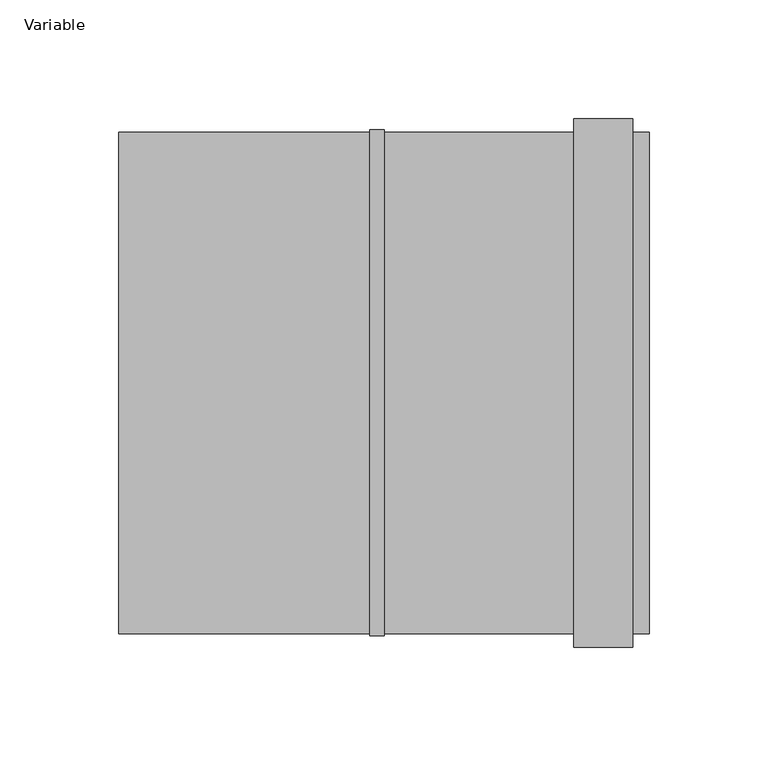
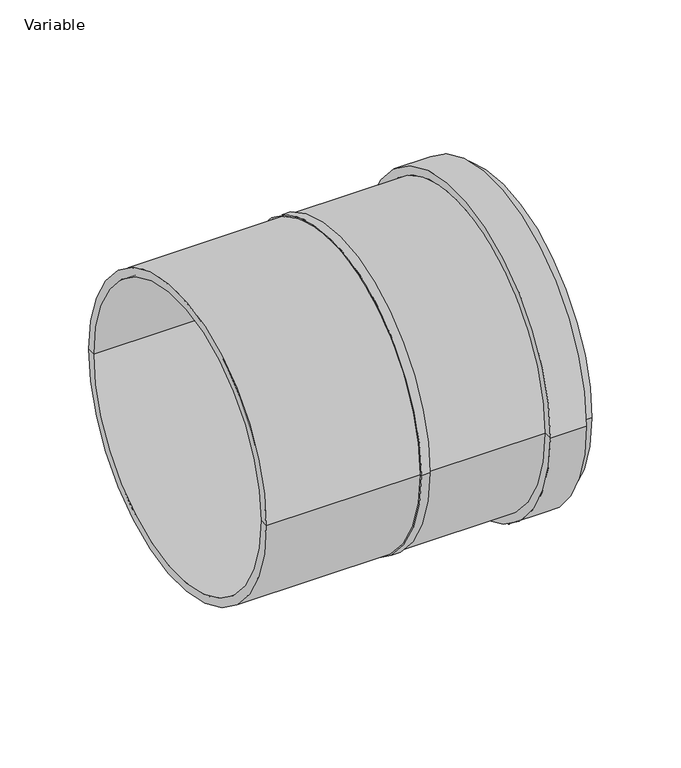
"""IFC4 building model written with IfcOpenShell, lengths in millimetres: pipe fitting geometry, AliaxisFR_Friaphon_MixedCoupling_FR : Variable."""

from ifc_helpers import new_model, si_unit, frame, origin, place, context, project, spatial, polyline, circle_curve, source, transform, mapped, element, save
from ifc_brep_helpers import plane_surface, cylinder_surface, revolved_surface, advanced_brep


def variable_fc7f2102(model_context):
    return source(origin(), model_context, "Body", "AdvancedBrep", [
        advanced_brep(
        [(115.5, -105.75, 0.0), (115.5, 105.75, 0.0), (115.5, 100.0, 0.0), (115.5, -100.0, 0.0), (108.5, -105.75, 0.0), (108.5, 105.75, 0.0), (108.5, -111.5, 0.0), (108.5, 111.5, 0.0), (83.5, -111.5, 0.0), (83.5, 111.5, 0.0), (83.5, -105.75, 0.0), (83.5, 105.75, 0.0), (3.5, -105.75, 0.0), (3.5, 105.75, 0.0), (-108.5, -100.0, 0.0), (-108.5, 100.0, 0.0), (-108.5, 105.75, 0.0), (-108.5, -105.75, 0.0), (-2.5, -100.0, 0.0), (-2.5, 100.0, 0.0), (-2.5, 0.0, 0.0), (2.5, 100.0, 0.0), (2.5, -100.0, 0.0), (3.5, -106.75, 0.0), (3.5, 106.75, 0.0), (-2.5, -106.75, 0.0), (-2.5, 106.75, 0.0), (-2.5, -105.75, 0.0), (-2.5, 105.75, 0.0), (2.5, 0.0, 0.0)],
        [
            (0, 1, circle_curve(frame((115.5, 0.0, 0.0), z_axis=(1.0, 0.0, 0.0), x_axis=(0.0, 1.0, 0.0)), 105.75)),
            (1, 2),
            (2, 3, circle_curve(frame((115.5, 0.0, 0.0), z_axis=(-1.0, 0.0, 0.0), x_axis=(0.0, 1.0, 0.0)), 100.0)),
            (3, 0),
            (1, 0, circle_curve(frame((115.5, 0.0, 0.0), z_axis=(1.0, 0.0, 0.0), x_axis=(0.0, 1.0, 0.0)), 105.75)),
            (3, 2, circle_curve(frame((115.5, 0.0, 0.0), z_axis=(-1.0, 0.0, 0.0), x_axis=(0.0, 1.0, 0.0)), 100.0)),
            (4, 5, circle_curve(frame((108.5, 0.0, 0.0), z_axis=(1.0, 0.0, 0.0), x_axis=(0.0, 1.0, 0.0)), 105.75)),
            (5, 1),
            (0, 4),
            (5, 4, circle_curve(frame((108.5, 0.0, 0.0), z_axis=(1.0, 0.0, 0.0), x_axis=(0.0, 1.0, 0.0)), 105.75)),
            (6, 7, circle_curve(frame((108.5, 0.0, 0.0), z_axis=(1.0, 0.0, 0.0), x_axis=(0.0, 1.0, 0.0)), 111.5)),
            (7, 5),
            (4, 6),
            (7, 6, circle_curve(frame((108.5, 0.0, 0.0), z_axis=(1.0, 0.0, 0.0), x_axis=(0.0, 1.0, 0.0)), 111.5)),
            (8, 9, circle_curve(frame((83.5, 0.0, 0.0), z_axis=(1.0, 0.0, 0.0), x_axis=(0.0, 1.0, 0.0)), 111.5)),
            (9, 7),
            (6, 8),
            (9, 8, circle_curve(frame((83.5, 0.0, 0.0), z_axis=(1.0, 0.0, 0.0), x_axis=(0.0, 1.0, 0.0)), 111.5)),
            (10, 11, circle_curve(frame((83.5, 0.0, 0.0), z_axis=(1.0, 0.0, 0.0), x_axis=(0.0, 1.0, 0.0)), 105.75)),
            (11, 9),
            (8, 10),
            (11, 10, circle_curve(frame((83.5, 0.0, 0.0), z_axis=(1.0, 0.0, 0.0), x_axis=(0.0, 1.0, 0.0)), 105.75)),
            (12, 13, circle_curve(frame((3.5, 0.0, 0.0), z_axis=(1.0, 0.0, 0.0), x_axis=(0.0, 1.0, 0.0)), 105.75)),
            (13, 11),
            (10, 12),
            (13, 12, circle_curve(frame((3.5, 0.0, 0.0), z_axis=(1.0, 0.0, 0.0), x_axis=(0.0, 1.0, 0.0)), 105.75)),
            (14, 15, circle_curve(frame((-108.5, 0.0, 0.0), z_axis=(1.0, 0.0, 0.0), x_axis=(0.0, 1.0, 0.0)), 100.0)),
            (15, 16),
            (16, 17, circle_curve(frame((-108.5, 0.0, 0.0), z_axis=(-1.0, 0.0, 0.0), x_axis=(0.0, 1.0, 0.0)), 105.75)),
            (17, 14),
            (15, 14, circle_curve(frame((-108.5, 0.0, 0.0), z_axis=(1.0, 0.0, 0.0), x_axis=(0.0, 1.0, 0.0)), 100.0)),
            (17, 16, circle_curve(frame((-108.5, 0.0, 0.0), z_axis=(-1.0, 0.0, 0.0), x_axis=(0.0, 1.0, 0.0)), 105.75)),
            (18, 19, circle_curve(frame((-2.5, 0.0, 0.0), z_axis=(1.0, 0.0, 0.0), x_axis=(0.0, 1.0, 0.0)), 100.0)),
            (19, 15),
            (14, 18),
            (19, 18, circle_curve(frame((-2.5, 0.0, 0.0), z_axis=(1.0, 0.0, 0.0), x_axis=(0.0, 1.0, 0.0)), 100.0)),
            (20, 19),
            (18, 20),
            (2, 21),
            (21, 22, circle_curve(frame((2.5, 0.0, 0.0), z_axis=(-1.0, 0.0, 0.0), x_axis=(0.0, 1.0, 0.0)), 100.0)),
            (22, 3),
            (22, 21, circle_curve(frame((2.5, 0.0, 0.0), z_axis=(-1.0, 0.0, 0.0), x_axis=(0.0, 1.0, 0.0)), 100.0)),
            (23, 24, circle_curve(frame((3.5, 0.0, 0.0), z_axis=(1.0, 0.0, 0.0), x_axis=(0.0, 1.0, 0.0)), 106.75)),
            (24, 13),
            (12, 23),
            (24, 23, circle_curve(frame((3.5, 0.0, 0.0), z_axis=(1.0, 0.0, 0.0), x_axis=(0.0, 1.0, 0.0)), 106.75)),
            (25, 26, circle_curve(frame((-2.5, 0.0, 0.0), z_axis=(1.0, 0.0, 0.0), x_axis=(0.0, 1.0, 0.0)), 106.75)),
            (26, 24),
            (23, 25),
            (26, 25, circle_curve(frame((-2.5, 0.0, 0.0), z_axis=(1.0, 0.0, 0.0), x_axis=(0.0, 1.0, 0.0)), 106.75)),
            (27, 28, circle_curve(frame((-2.5, 0.0, 0.0), z_axis=(1.0, 0.0, 0.0), x_axis=(0.0, 1.0, 0.0)), 105.75)),
            (28, 26),
            (25, 27),
            (28, 27, circle_curve(frame((-2.5, 0.0, 0.0), z_axis=(1.0, 0.0, 0.0), x_axis=(0.0, 1.0, 0.0)), 105.75)),
            (16, 28),
            (27, 17),
            (21, 29),
            (29, 22),
        ],
        [
            plane_surface(frame((115.5, 0.0, 0.0), z_axis=(1.0, 0.0, 0.0), x_axis=(0.0, 1.0, 0.0))),
            cylinder_surface(frame((2063.5, 0.0, 0.0), z_axis=(-1.0, 0.0, 0.0), x_axis=(0.0, 1.0, 0.0)), 105.75),
            plane_surface(frame((108.5, 0.0, 0.0), z_axis=(1.0, 0.0, 0.0), x_axis=(0.0, 1.0, 0.0))),
            cylinder_surface(frame((2063.5, 0.0, 0.0), z_axis=(-1.0, 0.0, 0.0), x_axis=(0.0, 1.0, 0.0)), 111.5),
            plane_surface(frame((83.5, 0.0, 0.0), z_axis=(-1.0, 0.0, 0.0), x_axis=(0.0, 1.0, 0.0))),
            plane_surface(frame((-108.5, 0.0, 0.0), z_axis=(-1.0, 0.0, 0.0), x_axis=(0.0, 1.0, 0.0))),
            revolved_surface(polyline([(-108.5, 100.0, 0.0), (-2.5, 100.0, 0.0)]), (2063.5, 0.0, 0.0), (-1.0, 0.0, 0.0)),
            plane_surface(frame((-2.5, 0.0, 0.0), z_axis=(-1.0, 0.0, 0.0), x_axis=(0.0, 1.0, 0.0))),
            revolved_surface(polyline([(2.5, 100.0, 0.0), (115.5, 100.0, 0.0)]), (2063.5, 0.0, 0.0), (-1.0, 0.0, 0.0)),
            plane_surface(frame((3.5, 0.0, 0.0), z_axis=(1.0, 0.0, 0.0), x_axis=(0.0, 1.0, 0.0))),
            cylinder_surface(frame((2063.5, 0.0, 0.0), z_axis=(-1.0, 0.0, 0.0), x_axis=(0.0, 1.0, 0.0)), 106.75),
            plane_surface(frame((2.5, 0.0, 0.0), z_axis=(1.0, 0.0, 0.0), x_axis=(0.0, 1.0, 0.0))),
        ],
        [
            (0, [[1, 2, 3, 4]]),
            (0, [[5, -4, 6, -2]]),
            (1, [[7, 8, -1, 9]]),
            (1, [[10, -9, -5, -8]]),
            (2, [[11, 12, -7, 13]]),
            (2, [[14, -13, -10, -12]]),
            (3, [[15, 16, -11, 17]]),
            (3, [[18, -17, -14, -16]]),
            (4, [[19, 20, -15, 21]]),
            (4, [[22, -21, -18, -20]]),
            (1, [[23, 24, -19, 25]]),
            (1, [[26, -25, -22, -24]]),
            (5, [[27, 28, 29, 30]]),
            (5, [[31, -30, 32, -28]]),
            (6, [[33, 34, -27, 35]]),
            (6, [[36, -35, -31, -34]]),
            (7, [[37, -33, 38]]),
            (7, [[-38, -36, -37]]),
            (8, [[-3, 39, 40, 41]]),
            (8, [[-6, -41, 42, -39]]),
            (9, [[43, 44, -23, 45]]),
            (9, [[46, -45, -26, -44]]),
            (10, [[47, 48, -43, 49]]),
            (10, [[50, -49, -46, -48]]),
            (7, [[51, 52, -47, 53]]),
            (7, [[54, -53, -50, -52]]),
            (1, [[-29, 55, -51, 56]]),
            (1, [[-32, -56, -54, -55]]),
            (11, [[-40, 57, 58]]),
            (11, [[-42, -58, -57]]),
        ],
    ),
    ])


if __name__ == "__main__":
    model = new_model("IFC4")
    model_context = context("Model", 3, world=origin())
    ifc_project = project(units=[si_unit("LENGTHUNIT", "METRE", prefix="MILLI")], contexts=[model_context])
    site = spatial("IfcSite", under=ifc_project)
    building = spatial("IfcBuilding", under=site)
    placement = place(None, origin())
    variable_shape = variable_fc7f2102(model_context)
    element("IfcPipeFitting", 1, ObjectType="AliaxisFR_Friaphon_MixedCoupling_FR : Variable", at=placement, inside=building, context=model_context, shape_type="MappedRepresentation", body=[
        mapped(variable_shape, transform((0.0, 0.0, 0.0), x_axis=(1.0, 0.0, 0.0), y_axis=(0.0, 1.0, 0.0), z_axis=(0.0, 0.0, 1.0))),
    ])
    save(model, "model.ifc")
